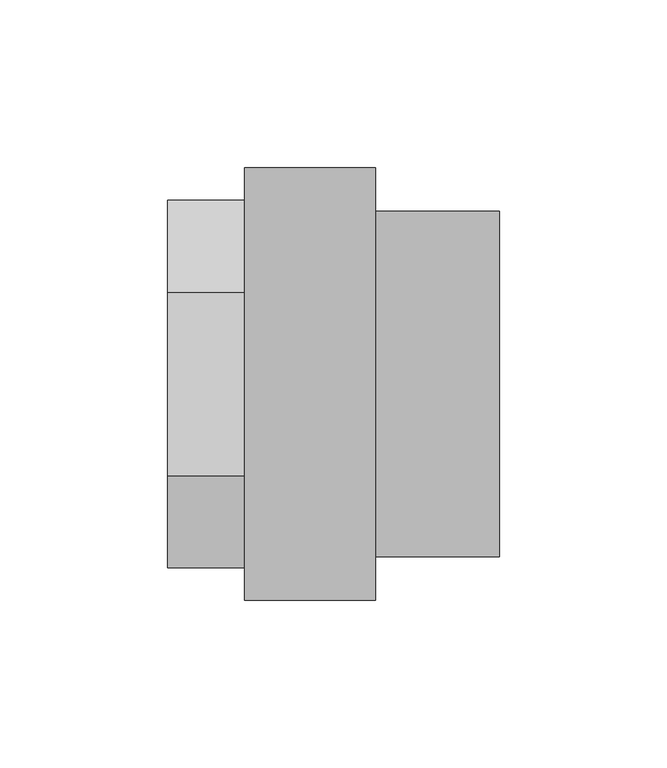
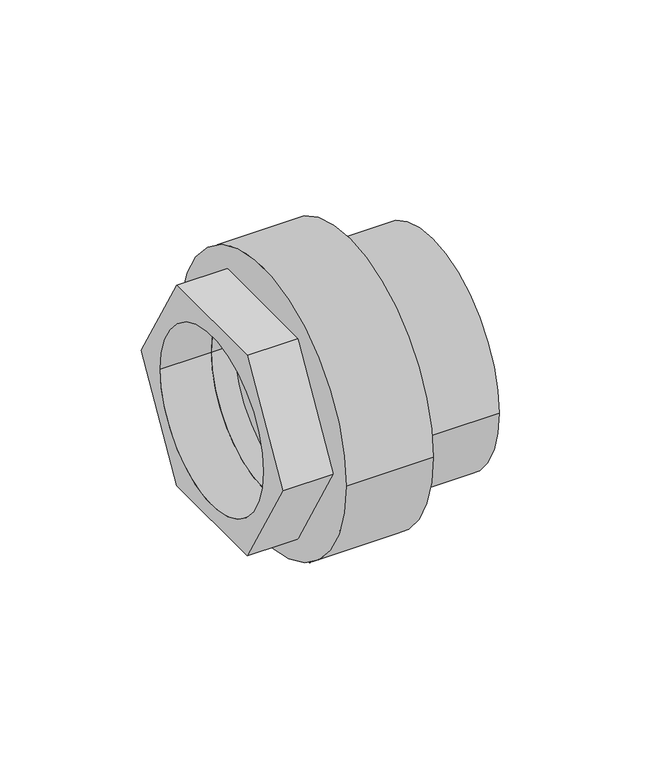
"""IFC4 building model written with IfcOpenShell, lengths in millimetres: pipe fitting geometry, NIRON RED termofusion roscado enlace rosca hembra hexagonal : Estándar."""

from ifc_helpers import new_model, si_unit, frame, origin, place, context, project, spatial, polyline, circle_curve, source, transform, mapped, element, save
from ifc_brep_helpers import plane_surface, cylinder_surface, revolved_surface, advanced_brep


def pipe_fitting_1b9f9c73(model_context):
    return source(origin(), model_context, "Body", "AdvancedBrep", [
        advanced_brep(
        [(62.0, 64.5, 0.0), (62.0, -64.5, 0.0), (23.0, 64.5, 0.0), (23.0, -64.5, 0.0), (23.0, -40.0, 0.0), (23.0, 40.0, 0.0), (33.3, 40.0, 0.0), (33.3, -40.0, 0.0)],
        [
            (0, 1, circle_curve(frame((62.0, 0.0, 0.0), z_axis=(1.0, 0.0, 0.0), x_axis=(0.0, -1.0, 0.0)), 64.5)),
            (1, 0, circle_curve(frame((62.0, 0.0, 0.0), z_axis=(1.0, 0.0, 0.0), x_axis=(0.0, -1.0, 0.0)), 64.5)),
            (2, 3, circle_curve(frame((23.0, 0.0, 0.0), z_axis=(-1.0, 0.0, 0.0), x_axis=(0.0, -1.0, 0.0)), 64.5)),
            (3, 2, circle_curve(frame((23.0, 0.0, 0.0), z_axis=(-1.0, 0.0, 0.0), x_axis=(0.0, -1.0, 0.0)), 64.5)),
            (4, 5, circle_curve(frame((23.0, 0.0, 0.0), z_axis=(1.0, 0.0, 0.0), x_axis=(0.0, -1.0, 0.0)), 40.0)),
            (5, 4, circle_curve(frame((23.0, 0.0, 0.0), z_axis=(1.0, 0.0, 0.0), x_axis=(0.0, -1.0, 0.0)), 40.0)),
            (1, 3),
            (2, 0),
            (6, 7, circle_curve(frame((33.3, 0.0, 0.0), z_axis=(-1.0, 0.0, 0.0), x_axis=(0.0, -1.0, 0.0)), 40.0)),
            (7, 6, circle_curve(frame((33.3, 0.0, 0.0), z_axis=(-1.0, 0.0, 0.0), x_axis=(0.0, -1.0, 0.0)), 40.0)),
            (6, 5),
            (4, 7),
        ],
        [
            plane_surface(frame((62.0, -64.5, 0.0), z_axis=(1.0, 0.0, 0.0), x_axis=(0.0, 0.0, -1.0))),
            plane_surface(frame((23.0, -64.5, 0.0), z_axis=(-1.0, 0.0, 0.0), x_axis=(0.0, 0.0, 1.0))),
            cylinder_surface(frame((62.0, 0.0, 0.0), z_axis=(-1.0, 0.0, 0.0), x_axis=(0.0, -1.0, 0.0)), 64.5),
            plane_surface(frame((33.3, -40.0, 0.0), z_axis=(-1.0, 0.0, 0.0), x_axis=(0.0, 0.0, -1.0))),
            revolved_surface(polyline([(23.0, -40.0, 0.0), (33.3, -40.0, 0.0)]), (33.3, 0.0, 0.0), (-1.0, 0.0, 0.0)),
        ],
        [
            (0, [[1, 2]]),
            (1, [[3, 4], [5, 6]]),
            (2, [[-2, 7, -3, 8]]),
            (2, [[-1, -8, -4, -7]]),
            (3, [[9, 10]]),
            (4, [[-9, 11, -5, 12]]),
            (4, [[-10, -12, -6, -11]]),
        ],
    ),
        advanced_brep(
        [(23.0, 51.5, 0.0), (23.0, -51.5, 0.0), (23.0, -40.0, 0.0), (23.0, 40.0, 0.0), (99.0, 51.5, 0.0), (99.0, -51.5, 0.0), (33.3, 40.0, 0.0), (33.3, -40.0, 0.0)],
        [
            (0, 1, circle_curve(frame((23.0, 0.0, 0.0), z_axis=(-1.0, 0.0, 0.0), x_axis=(0.0, -1.0, 0.0)), 51.5)),
            (1, 0, circle_curve(frame((23.0, 0.0, 0.0), z_axis=(-1.0, 0.0, 0.0), x_axis=(0.0, -1.0, 0.0)), 51.5)),
            (2, 3, circle_curve(frame((23.0, 0.0, 0.0), z_axis=(1.0, 0.0, 0.0), x_axis=(0.0, -1.0, 0.0)), 40.0)),
            (3, 2, circle_curve(frame((23.0, 0.0, 0.0), z_axis=(1.0, 0.0, 0.0), x_axis=(0.0, -1.0, 0.0)), 40.0)),
            (4, 5, circle_curve(frame((99.0, 0.0, 0.0), z_axis=(1.0, 0.0, 0.0), x_axis=(0.0, -1.0, 0.0)), 51.5)),
            (5, 4, circle_curve(frame((99.0, 0.0, 0.0), z_axis=(1.0, 0.0, 0.0), x_axis=(0.0, -1.0, 0.0)), 51.5)),
            (0, 4),
            (5, 1),
            (6, 7, circle_curve(frame((33.3, 0.0, 0.0), z_axis=(-1.0, 0.0, 0.0), x_axis=(0.0, -1.0, 0.0)), 40.0)),
            (7, 6, circle_curve(frame((33.3, 0.0, 0.0), z_axis=(-1.0, 0.0, 0.0), x_axis=(0.0, -1.0, 0.0)), 40.0)),
            (6, 3),
            (2, 7),
        ],
        [
            plane_surface(frame((23.0, -51.5, 0.0), z_axis=(-1.0, 0.0, 0.0), x_axis=(0.0, 0.0, 1.0))),
            plane_surface(frame((99.0, -51.5, 0.0), z_axis=(1.0, 0.0, 0.0), x_axis=(0.0, 0.0, -1.0))),
            cylinder_surface(frame((99.0, 0.0, 0.0), z_axis=(-1.0, 0.0, 0.0), x_axis=(0.0, -1.0, 0.0)), 51.5),
            plane_surface(frame((33.3, -40.0, 0.0), z_axis=(-1.0, 0.0, 0.0), x_axis=(0.0, 0.0, -1.0))),
            revolved_surface(polyline([(23.0, -40.0, 0.0), (33.3, -40.0, 0.0)]), (33.3, 0.0, 0.0), (-1.0, 0.0, 0.0)),
        ],
        [
            (0, [[1, 2], [3, 4]]),
            (1, [[5, 6]]),
            (2, [[-1, 7, -6, 8]]),
            (2, [[-2, -8, -5, -7]]),
            (3, [[9, 10]]),
            (4, [[-9, 11, -3, 12]]),
            (4, [[-10, -12, -4, -11]]),
        ],
    ),
        advanced_brep(
        [(45.0, -27.4241378, -47.5), (45.0, 27.4241378, -47.5), (45.0, 54.8482756, 0.0), (45.0, 27.4241378, 47.5), (45.0, -27.4241378, 47.5), (45.0, -54.8482756, 0.0), (0.0, -27.4241378, -47.5), (0.0, -54.8482756, 0.0), (0.0, -27.4241378, 47.5), (0.0, 27.4241378, 47.5), (0.0, 54.8482756, 0.0), (0.0, 27.4241378, -47.5), (0.0, -40.0, 0.0), (0.0, 40.0, 0.0), (33.3, 40.0, 0.0), (33.3, -40.0, 0.0)],
        [
            (0, 1),
            (1, 2),
            (2, 3),
            (3, 4),
            (4, 5),
            (5, 0),
            (6, 7),
            (7, 8),
            (8, 9),
            (9, 10),
            (10, 11),
            (11, 6),
            (12, 13, circle_curve(frame((0.0, 0.0, 0.0), z_axis=(1.0, 0.0, 0.0), x_axis=(0.0, -1.0, 0.0)), 40.0)),
            (13, 12, circle_curve(frame((0.0, 0.0, 0.0), z_axis=(1.0, 0.0, 0.0), x_axis=(0.0, -1.0, 0.0)), 40.0)),
            (0, 6),
            (11, 1),
            (10, 2),
            (9, 3),
            (8, 4),
            (7, 5),
            (14, 15, circle_curve(frame((33.3, 0.0, 0.0), z_axis=(-1.0, 0.0, 0.0), x_axis=(0.0, -1.0, 0.0)), 40.0)),
            (15, 14, circle_curve(frame((33.3, 0.0, 0.0), z_axis=(-1.0, 0.0, 0.0), x_axis=(0.0, -1.0, 0.0)), 40.0)),
            (14, 13),
            (12, 15),
        ],
        [
            plane_surface(frame((45.0, 0.0, 0.0), z_axis=(1.0, 0.0, 0.0), x_axis=(0.0, 0.0, 1.0))),
            plane_surface(frame((0.0, 0.0, 0.0), z_axis=(-1.0, 0.0, 0.0), x_axis=(0.0, 0.0, 1.0))),
            plane_surface(frame((45.0, -27.4241378, -47.5), z_axis=(0.0, 0.0, -1.0), x_axis=(-1.0, 0.0, 0.0))),
            plane_surface(frame((45.0, 27.4241378, -47.5), z_axis=(0.0, 0.8660254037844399, -0.4999999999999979), x_axis=(-1.0, 0.0, 0.0))),
            plane_surface(frame((45.0, 54.8482756, 0.0), z_axis=(0.0, 0.866025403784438, 0.5000000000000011), x_axis=(-1.0, 0.0, 0.0))),
            plane_surface(frame((45.0, 27.4241378, 47.5), z_axis=(0.0, 0.0, 1.0), x_axis=(-1.0, 0.0, 0.0))),
            plane_surface(frame((45.0, -27.4241378, 47.5), z_axis=(0.0, -0.8660254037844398, 0.499999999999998), x_axis=(-1.0, 0.0, 0.0))),
            plane_surface(frame((45.0, -54.8482756, 0.0), z_axis=(0.0, -0.866025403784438, -0.500000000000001), x_axis=(-1.0, 0.0, 0.0))),
            plane_surface(frame((33.3, -40.0, 0.0), z_axis=(-1.0, 0.0, 0.0), x_axis=(0.0, 0.0, -1.0))),
            revolved_surface(polyline([(0.0, -40.0, 0.0), (33.3, -40.0, 0.0)]), (33.3, 0.0, 0.0), (-1.0, 0.0, 0.0)),
        ],
        [
            (0, [[1, 2, 3, 4, 5, 6]]),
            (1, [[7, 8, 9, 10, 11, 12], [13, 14]]),
            (2, [[-1, 15, -12, 16]]),
            (3, [[-2, -16, -11, 17]]),
            (4, [[-3, -17, -10, 18]]),
            (5, [[-4, -18, -9, 19]]),
            (6, [[-5, -19, -8, 20]]),
            (7, [[-6, -20, -7, -15]]),
            (8, [[21, 22]]),
            (9, [[-21, 23, -13, 24]]),
            (9, [[-22, -24, -14, -23]]),
        ],
    ),
    ])


if __name__ == "__main__":
    model = new_model("IFC4")
    model_context = context("Model", 3, world=origin())
    ifc_project = project(units=[si_unit("LENGTHUNIT", "METRE", prefix="MILLI")], contexts=[model_context])
    site = spatial("IfcSite", under=ifc_project)
    building = spatial("IfcBuilding", under=site)
    placement = place(None, origin())
    pipe_fitting_shape = pipe_fitting_1b9f9c73(model_context)
    element("IfcPipeFitting", 1, ObjectType="NIRON RED termofusion roscado enlace rosca hembra hexagonal : Estándar", at=placement, inside=building, context=model_context, shape_type="MappedRepresentation", body=[
        mapped(pipe_fitting_shape, transform((0.0, 0.0, 0.0), x_axis=(1.0, 0.0, 0.0), y_axis=(0.0, 1.0, 0.0), z_axis=(0.0, 0.0, 1.0))),
    ])
    save(model, "model.ifc")
